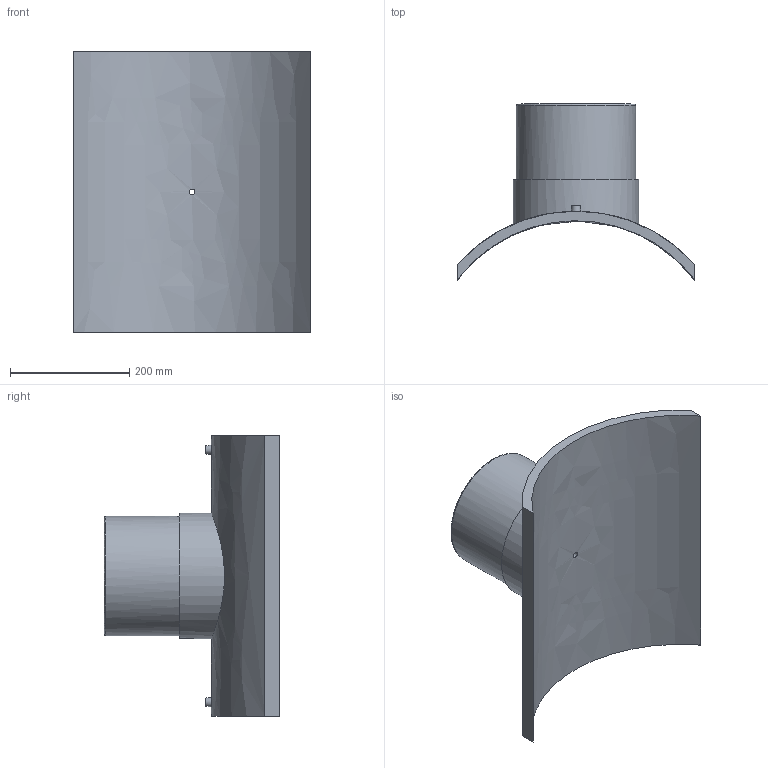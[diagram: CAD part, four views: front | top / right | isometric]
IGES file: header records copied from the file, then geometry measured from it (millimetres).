
Global section: file name: 495803500200T; native system: Autodesk Inventor 2019; preprocessor: unknown; author: KIM; date: 20240404.115147; units: millimetre
Bounding box: 398 x 294.68 x 470 mm (x, y, z)
Volume: 5762045.5 mm3; surface area: 689375.3 mm2
Topology: 1 solids, 1 shells, 29 faces, 60 edges, 43 vertices
Faces by surface type: bspline 29
